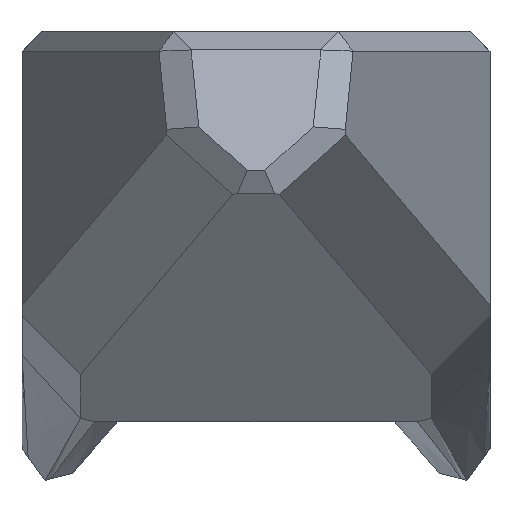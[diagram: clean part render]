
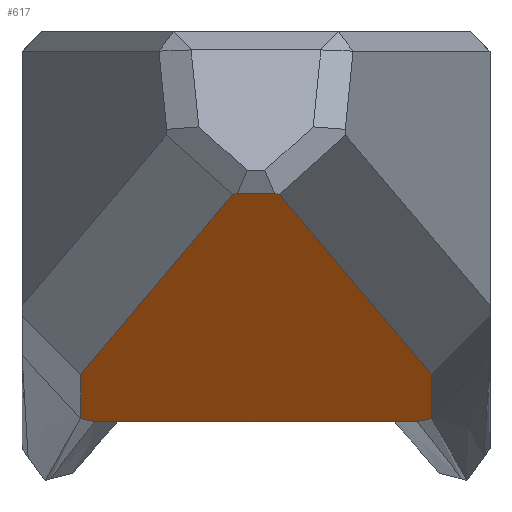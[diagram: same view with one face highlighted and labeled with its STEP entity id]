
A CAD part, front view. The second image highlights one B-rep face of the part: STEP entity #617.
In plain terms, the highlighted planar face has unit normal (0, -0.301, -0.954).
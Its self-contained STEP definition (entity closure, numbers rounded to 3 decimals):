
#15 = EDGE_CURVE ( 'NONE', #743, #788, #1523, .T. ) ;
#16 = CARTESIAN_POINT ( 'NONE',  ( -4.5, -3.252, -9.92 ) ) ;
#29 = CARTESIAN_POINT ( 'NONE',  ( 4.5, -3.252, -9.92 ) ) ;
#30 = LINE ( 'NONE', #1566, #256 ) ;
#35 = LINE ( 'NONE', #1332, #1018 ) ;
#47 = EDGE_CURVE ( 'NONE', #341, #1351, #839, .T. ) ;
#62 = EDGE_CURVE ( 'NONE', #1255, #1451, #377, .T. ) ;
#127 = CARTESIAN_POINT ( 'NONE',  ( 0.6, -21.446, -4.175 ) ) ;
#131 = CARTESIAN_POINT ( 'NONE',  ( -4.253, -3.084, -9.973 ) ) ;
#132 = CARTESIAN_POINT ( 'NONE',  ( 6., -21.523, -4.151 ) ) ;
#135 = VECTOR ( 'NONE', #776, 1000. ) ;
#170 = ORIENTED_EDGE ( 'NONE', *, *, #286, .T. ) ;
#173 = ORIENTED_EDGE ( 'NONE', *, *, #1348, .T. ) ;
#218 = ORIENTED_EDGE ( 'NONE', *, *, #1443, .T. ) ;
#256 = VECTOR ( 'NONE', #1304, 1000. ) ;
#271 = ORIENTED_EDGE ( 'NONE', *, *, #47, .T. ) ;
#273 = DIRECTION ( 'NONE',  ( -0.832, -0.529, 0.167 ) ) ;
#283 = CARTESIAN_POINT ( 'NONE',  ( -4.5, -22., -4. ) ) ;
#286 = EDGE_CURVE ( 'NONE', #1446, #341, #504, .T. ) ;
#338 = LINE ( 'NONE', #1104, #1431 ) ;
#341 = VERTEX_POINT ( 'NONE', #16 ) ;
#356 = ORIENTED_EDGE ( 'NONE', *, *, #1039, .T. ) ;
#365 = CARTESIAN_POINT ( 'NONE',  ( 4.253, -3.084, -9.973 ) ) ;
#377 = LINE ( 'NONE', #886, #431 ) ;
#383 = FACE_OUTER_BOUND ( 'NONE', #1378, .T. ) ;
#384 = CARTESIAN_POINT ( 'NONE',  ( -4.129, -3., -10. ) ) ;
#422 = ORIENTED_EDGE ( 'NONE', *, *, #1419, .T. ) ;
#425 = ORIENTED_EDGE ( 'NONE', *, *, #15, .T. ) ;
#431 = VECTOR ( 'NONE', #764, 1000. ) ;
#458 = AXIS2_PLACEMENT_3D ( 'NONE', #760, #1526, #1544 ) ;
#485 = B_SPLINE_CURVE_WITH_KNOTS ( 'NONE', 3,
 ( #1518, #365, #1297, #1031 ),
 .UNSPECIFIED., .F., .F.,
 ( 4, 4 ),
 ( 0., 1. ),
 .UNSPECIFIED. ) ;
#504 = LINE ( 'NONE', #283, #135 ) ;
#570 = CARTESIAN_POINT ( 'NONE',  ( -4.5, -6.821, -8.793 ) ) ;
#590 = CARTESIAN_POINT ( 'NONE',  ( -0.479, -21.523, -4.151 ) ) ;
#604 = VERTEX_POINT ( 'NONE', #127 ) ;
#614 = DIRECTION ( 'NONE',  ( -1., 0., 0. ) ) ;
#617 = ADVANCED_FACE ( 'NONE', ( #383 ), #997, .F. ) ;
#625 = VECTOR ( 'NONE', #273, 1000. ) ;
#633 = ORIENTED_EDGE ( 'NONE', *, *, #1238, .F. ) ;
#634 = CARTESIAN_POINT ( 'NONE',  ( -4.376, -3.168, -9.947 ) ) ;
#670 = CARTESIAN_POINT ( 'NONE',  ( 4.129, -3., -10. ) ) ;
#684 = EDGE_CURVE ( 'NONE', #1413, #743, #485, .T. ) ;
#692 = CARTESIAN_POINT ( 'NONE',  ( 0.479, -21.523, -4.151 ) ) ;
#743 = VERTEX_POINT ( 'NONE', #29 ) ;
#760 = CARTESIAN_POINT ( 'NONE',  ( 6., -22., -4. ) ) ;
#764 = DIRECTION ( 'NONE',  ( -0.832, 0.529, -0.167 ) ) ;
#771 = CARTESIAN_POINT ( 'NONE',  ( 4.5, -7., -8.737 ) ) ;
#776 = DIRECTION ( 'NONE',  ( 0., 0.954, -0.301 ) ) ;
#788 = VERTEX_POINT ( 'NONE', #789 ) ;
#789 = CARTESIAN_POINT ( 'NONE',  ( 4.5, -6.821, -8.793 ) ) ;
#812 = CARTESIAN_POINT ( 'NONE',  ( -0.6, -21.446, -4.175 ) ) ;
#839 = B_SPLINE_CURVE_WITH_KNOTS ( 'NONE', 3,
 ( #1540, #634, #131, #1286 ),
 .UNSPECIFIED., .F., .F.,
 ( 4, 4 ),
 ( 0., 1. ),
 .UNSPECIFIED. ) ;
#886 = CARTESIAN_POINT ( 'NONE',  ( 0.881, -22.388, -3.877 ) ) ;
#997 = PLANE ( 'NONE',  #458 ) ;
#1018 = VECTOR ( 'NONE', #1318, 1000. ) ;
#1031 = CARTESIAN_POINT ( 'NONE',  ( 4.5, -3.252, -9.92 ) ) ;
#1039 = EDGE_CURVE ( 'NONE', #1399, #1255, #1130, .T. ) ;
#1088 = VECTOR ( 'NONE', #1268, 1000. ) ;
#1104 = CARTESIAN_POINT ( 'NONE',  ( 6., -3., -10. ) ) ;
#1130 = LINE ( 'NONE', #132, #1337 ) ;
#1238 = EDGE_CURVE ( 'NONE', #1413, #1351, #338, .T. ) ;
#1255 = VERTEX_POINT ( 'NONE', #590 ) ;
#1268 = DIRECTION ( 'NONE',  ( 0., -0.954, 0.301 ) ) ;
#1286 = CARTESIAN_POINT ( 'NONE',  ( -4.129, -3., -10. ) ) ;
#1297 = CARTESIAN_POINT ( 'NONE',  ( 4.376, -3.168, -9.947 ) ) ;
#1304 = DIRECTION ( 'NONE',  ( -0.246, 0.924, -0.292 ) ) ;
#1318 = DIRECTION ( 'NONE',  ( -0.246, -0.924, 0.292 ) ) ;
#1332 = CARTESIAN_POINT ( 'NONE',  ( 0.546, -21.647, -4.111 ) ) ;
#1337 = VECTOR ( 'NONE', #614, 1000. ) ;
#1348 = EDGE_CURVE ( 'NONE', #604, #1399, #1558, .T. ) ;
#1351 = VERTEX_POINT ( 'NONE', #384 ) ;
#1378 = EDGE_LOOP ( 'NONE', ( #356, #1606, #218, #170, #271, #633, #1478, #425, #422, #173 ) ) ;
#1399 = VERTEX_POINT ( 'NONE', #692 ) ;
#1413 = VERTEX_POINT ( 'NONE', #670 ) ;
#1418 = CARTESIAN_POINT ( 'NONE',  ( 3.595, -19.541, -4.777 ) ) ;
#1419 = EDGE_CURVE ( 'NONE', #788, #604, #35, .T. ) ;
#1431 = VECTOR ( 'NONE', #1625, 1000. ) ;
#1443 = EDGE_CURVE ( 'NONE', #1451, #1446, #30, .T. ) ;
#1446 = VERTEX_POINT ( 'NONE', #570 ) ;
#1451 = VERTEX_POINT ( 'NONE', #812 ) ;
#1478 = ORIENTED_EDGE ( 'NONE', *, *, #684, .T. ) ;
#1518 = CARTESIAN_POINT ( 'NONE',  ( 4.129, -3., -10. ) ) ;
#1523 = LINE ( 'NONE', #771, #1088 ) ;
#1526 = DIRECTION ( 'NONE',  ( 0., 0.301, 0.954 ) ) ;
#1540 = CARTESIAN_POINT ( 'NONE',  ( -4.5, -3.252, -9.92 ) ) ;
#1544 = DIRECTION ( 'NONE',  ( 0., -0.954, 0.301 ) ) ;
#1558 = LINE ( 'NONE', #1418, #625 ) ;
#1566 = CARTESIAN_POINT ( 'NONE',  ( -4.546, -6.647, -8.848 ) ) ;
#1606 = ORIENTED_EDGE ( 'NONE', *, *, #62, .T. ) ;
#1625 = DIRECTION ( 'NONE',  ( -1., 0., 0. ) ) ;
